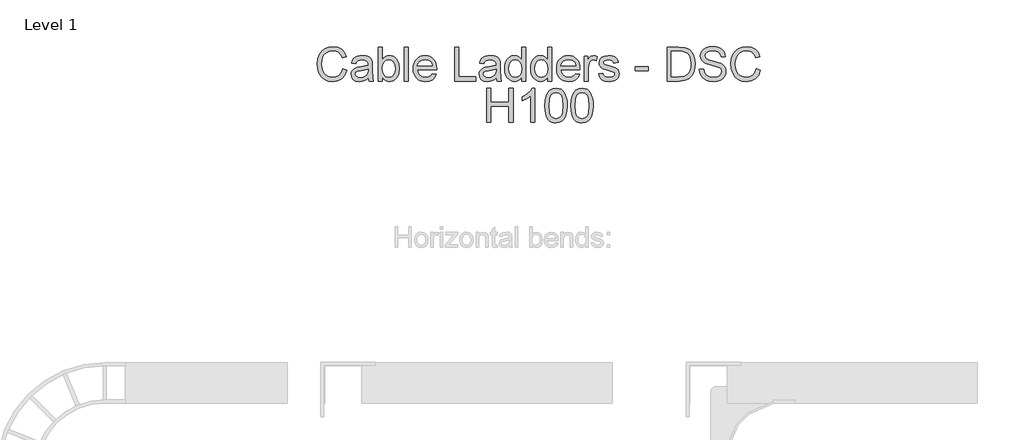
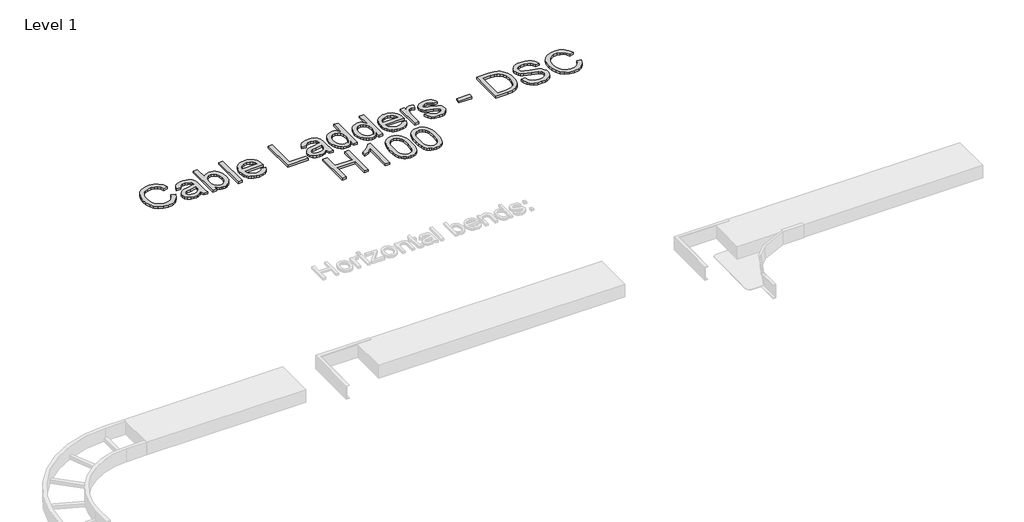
# One storey, part 87 of 106: 1 proxy.
"""IFC4 building model written with IfcOpenShell, lengths in millimetres."""

from ifc_helpers import new_model, si_unit, origin, origin_with_axes, place, context, project, spatial, polyline, outline, extrude, element, save

model = new_model("IFC4")

# Units and contexts
model_context = context("Model", 3, world=origin())
ifc_project = project(units=[si_unit("LENGTHUNIT", "METRE", prefix="MILLI")], contexts=[model_context])

# Site, building, storey
site = spatial("IfcSite", under=ifc_project)
building = spatial("IfcBuilding", under=site)
storey = spatial("IfcBuildingStorey", under=building, Name="Level 1", Elevation=0.0)

# Proxy
placement = place(None, origin())
element("IfcBuildingElementProxy", 1, Name="250mm Arial 3", ObjectType="250mm Arial 3", at=placement, inside=storey, context=model_context, shape_type="SweptSolid", body=[
    extrude(outline(polyline([(92177.4786825, 71592.4106539), (92208.8712794, 71584.31725), (92194.3859258, 71547.7359841), (92171.6538842, 71521.01089), (92141.7941289, 71504.6631338), (92105.9256344, 71499.2138818), (92069.5129811, 71503.3372258), (92040.5959234, 71515.7072579), (92018.4310332, 71535.8947824), (92002.2748823, 71563.4706036), (91992.4110463, 71595.8902044), (91989.1231009, 71630.6090677), (91992.8402419, 71667.2286547), (92003.9916649, 71698.8511778), (92021.9948901, 71724.472626), (92046.2674375, 71743.0889877), (92075.0542037, 71754.4243517), (92106.6000847, 71758.2028064), (92141.0200439, 71753.3130415), (92169.4772491, 71738.643747), (92191.0826521, 71715.0992993), (92204.9472048, 71683.584075), (92173.5546079, 71676.1038078), (92162.6714322, 71698.9967978), (92147.8028682, 71714.7007605), (92128.764975, 71723.7828472), (92105.3738114, 71726.8102095), (92078.4111269, 71723.4532863), (92056.2615651, 71713.3825166), (92039.4539564, 71697.6555613), (92028.5171313, 71677.3300811), (92022.5160562, 71654.3527848), (92020.5156979, 71630.6703814), (92022.8839382, 71601.6690174), (92029.9886592, 71576.5917281), (92042.0981083, 71556.3965394), (92059.4805325, 71542.0414774), (92080.3195147, 71533.4652284), (92102.7986375, 71530.6064787), (92129.0025654, 71534.4998965), (92150.8378947, 71546.1801498), (92167.3236066, 71565.5246114), (92177.4786825, 71592.4106539)])), origin_with_axes(), (0.0, 0.0, 1.0), 15.0),
    extrude(outline(polyline([(92365.834264, 71526.6824041), (92350.8354085, 71513.8218627), (92335.3920289, 71505.406562), (92319.1515717, 71500.7620518), (92301.7614832, 71499.2138818), (92275.5268984, 71502.938687), (92256.1747726, 71514.1131026), (92244.2416004, 71531.0816596), (92240.2638763, 71552.1888891), (92241.7660611, 71565.2027147), (92246.2726156, 71577.0209238), (92262.0608845, 71595.0471415), (92284.0418337, 71605.3478374), (92311.2037877, 71610.0689897), (92365.650323, 71620.8601949), (92365.834264, 71627.8499528), (92363.6729573, 71641.8601254), (92357.1890371, 71651.0265185), (92342.6883551, 71657.8323354), (92322.4855022, 71660.100941), (92303.7848342, 71658.591092), (92290.7250233, 71654.0615449), (92281.8192134, 71645.6845653), (92275.5805479, 71632.6324187), (92244.1879509, 71636.5564933), (92249.637203, 71653.7243198), (92257.7689279, 71667.2133262), (92269.3418824, 71677.5293505), (92285.1148229, 71685.1782303), (92304.405635, 71689.914711), (92326.5322042, 71691.4935379), (92347.7543968, 71690.098652), (92364.5773339, 71685.9139943), (92377.2615985, 71679.6216794), (92386.0677737, 71671.9038217), (92395.6940193, 71650.5973228), (92397.2268609, 71623.1288005), (92397.2268609, 71584.0719953), (92398.8210162, 71529.5334895), (92405.0750102, 71503.1379564), (92373.6824132, 71503.1379564), (92365.834264, 71526.6824041)]), holes=[polyline([(92365.834264, 71589.4675979), (92315.189176, 71579.8413524), (92288.1805062, 71574.7523181), (92275.9484299, 71566.4749732), (92271.6564732, 71554.3961811), (92273.9940568, 71545.0611754), (92281.0068073, 71537.4122956), (92292.5414407, 71532.3079329), (92308.4446728, 71530.6064787), (92325.3059309, 71532.4842097), (92340.2051517, 71538.1174028), (92352.2839439, 71546.4177403), (92360.6839161, 71556.2969047), (92364.4087213, 71566.4749732), (92365.650323, 71580.5771164), (92365.834264, 71589.4675979)])]), origin_with_axes(), (0.0, 0.0, 1.0), 15.0),
    extrude(outline(polyline([(92471.7842786, 71503.1379564), (92440.3916817, 71503.1379564), (92440.3916817, 71754.2787318), (92471.7842786, 71754.2787318), (92471.7842786, 71661.1432733), (92482.1079671, 71674.4215141), (92493.7652278, 71683.9059718), (92506.7560608, 71689.5966464), (92521.080466, 71691.4935379), (92537.2519453, 71689.7844195), (92552.5343766, 71684.6570642), (92566.0540399, 71676.4333687), (92576.9372156, 71665.4352299), (92591.9284069, 71635.5448178), (92597.3546663, 71598.1128248), (92591.7368017, 71556.2049342), (92584.7144709, 71539.2746982), (92574.8832078, 71525.0269351), (92563.0822431, 71513.7337243), (92550.1508078, 71505.6671451), (92536.0889017, 71500.8271976), (92520.896525, 71499.2138818), (92506.100771, 71501.2947143), (92492.9834786, 71507.5372119), (92481.5446478, 71517.9413746), (92471.7842786, 71532.5072023), (92471.7842786, 71503.1379564)]), holes=[polyline([(92471.7842786, 71596.6412968), (92473.9302569, 71570.4603615), (92480.3681918, 71552.7407121), (92496.8155827, 71536.140037), (92518.1987237, 71530.6064787), (92536.3169119, 71534.6838375), (92551.7986126, 71546.9159138), (92562.4212052, 71567.2260656), (92565.9620694, 71595.5376509), (92562.5668251, 71624.2631033), (92552.3810924, 71644.3433289), (92537.3822369, 71656.161538), (92519.5476243, 71660.100941), (92501.4294361, 71656.0235822), (92485.9477354, 71643.7915059), (92475.3251428, 71623.8492361), (92471.7842786, 71596.6412968)])]), origin_with_axes(), (0.0, 0.0, 1.0), 15.0),
    extrude(outline(polyline([(92632.6713378, 71503.1379564), (92632.6713378, 71754.2787318), (92664.0639348, 71754.2787318), (92664.0639348, 71503.1379564), (92632.6713378, 71503.1379564)])), origin_with_axes(), (0.0, 0.0, 1.0), 15.0),
    extrude(outline(polyline([(92840.2794105, 71558.075001), (92871.0588707, 71554.1509264), (92859.9687614, 71530.9590323), (92842.2721046, 71513.6225933), (92818.3674391, 71502.8160596), (92788.6533038, 71499.2138818), (92769.1747186, 71500.7678), (92751.819119, 71505.4295547), (92736.5865052, 71513.1991458), (92723.476877, 71524.0765733), (92712.9347586, 71537.759101), (92705.404674, 71553.9439928), (92700.8866232, 71572.6312485), (92699.3806063, 71593.8208682), (92700.9019516, 71615.7290074), (92705.4659876, 71635.0389801), (92713.0727143, 71651.7507861), (92723.7221317, 71665.8644256), (92736.7972709, 71677.0771622), (92751.6811633, 71685.0862598), (92768.3738088, 71689.8917184), (92786.8752075, 71691.4935379), (92804.780714, 71689.8955505), (92820.9732699, 71685.1015883), (92835.4528753, 71677.1116512), (92848.2195302, 71665.9257393), (92858.6409373, 71651.8427566), (92866.0847996, 71635.1616074), (92870.5511169, 71615.8822916), (92872.0398894, 71594.0048092), (92871.8559484, 71585.5435233), (92730.7732032, 71585.5435233), (92736.2071269, 71562.0450609), (92748.8300778, 71544.7699355), (92767.0479008, 71534.1473429), (92789.2664405, 71530.6064787), (92805.9744144, 71532.2466193), (92820.0459007, 71537.1670409), (92831.4808994, 71545.6743121), (92840.2794105, 71558.075001)]), holes=[polyline([(92730.7732032, 71616.9361202), (92840.6472925, 71616.9361202), (92836.4013211, 71633.5214669), (92828.077991, 71645.3856612), (92809.7758617, 71656.4221211), (92786.7525802, 71660.100941), (92765.5917012, 71657.1655493), (92748.0943138, 71648.359374), (92735.9312154, 71634.632777), (92730.7732032, 71616.9361202)])]), origin_with_axes(), (0.0, 0.0, 1.0), 15.0),
    extrude(outline(polyline([(93005.4584263, 71503.1379564), (93005.4584263, 71754.2787318), (93036.8510232, 71754.2787318), (93036.8510232, 71534.5305533), (93162.4214109, 71534.5305533), (93162.4214109, 71503.1379564), (93005.4584263, 71503.1379564)])), origin_with_axes(), (0.0, 0.0, 1.0), 15.0),
    extrude(outline(polyline([(93311.5362463, 71526.6824041), (93296.5373908, 71513.8218627), (93281.0940112, 71505.406562), (93264.8535539, 71500.7620518), (93247.4634655, 71499.2138818), (93221.2288807, 71502.938687), (93201.8767549, 71514.1131026), (93189.9435827, 71531.0816596), (93185.9658586, 71552.1888891), (93187.4680434, 71565.2027147), (93191.9745978, 71577.0209238), (93207.7628668, 71595.0471415), (93229.743816, 71605.3478374), (93256.90577, 71610.0689897), (93311.3523053, 71620.8601949), (93311.5362463, 71627.8499528), (93309.3749396, 71641.8601254), (93302.8910194, 71651.0265185), (93288.3903374, 71657.8323354), (93268.1874845, 71660.100941), (93249.4868164, 71658.591092), (93236.4270056, 71654.0615449), (93227.5211956, 71645.6845653), (93221.2825301, 71632.6324187), (93189.8899332, 71636.5564933), (93195.3391853, 71653.7243198), (93203.4709102, 71667.2133262), (93215.0438646, 71677.5293505), (93230.8168052, 71685.1782303), (93250.1076173, 71689.914711), (93272.2341865, 71691.4935379), (93293.4563791, 71690.098652), (93310.2793161, 71685.9139943), (93322.9635808, 71679.6216794), (93331.769756, 71671.9038217), (93341.3960016, 71650.5973228), (93342.9288432, 71623.1288005), (93342.9288432, 71584.0719953), (93344.5229985, 71529.5334895), (93350.7769924, 71503.1379564), (93319.3843955, 71503.1379564), (93311.5362463, 71526.6824041)]), holes=[polyline([(93311.5362463, 71589.4675979), (93260.8911583, 71579.8413524), (93233.8824885, 71574.7523181), (93221.6504121, 71566.4749732), (93217.3584555, 71554.3961811), (93219.696039, 71545.0611754), (93226.7087896, 71537.4122956), (93238.2434229, 71532.3079329), (93254.146655, 71530.6064787), (93271.0079131, 71532.4842097), (93285.9071339, 71538.1174028), (93297.9859261, 71546.4177403), (93306.3858983, 71556.2969047), (93310.1107035, 71566.4749732), (93311.3523053, 71580.5771164), (93311.5362463, 71589.4675979)])]), origin_with_axes(), (0.0, 0.0, 1.0), 15.0),
    extrude(outline(polyline([(93499.8918278, 71503.1379564), (93499.8918278, 71532.752457), (93490.4993406, 71518.0793303), (93479.1218235, 71507.5985256), (93465.7592764, 71501.3100427), (93450.4116995, 71499.2138818), (93430.1168761, 71502.2489082), (93411.5388353, 71511.3539876), (93395.81188, 71525.8929906), (93384.070313, 71545.229788), (93376.7586583, 71568.5826305), (93374.3214401, 71595.1697689), (93376.5670531, 71621.4273463), (93383.3038922, 71645.1404065), (93394.524293, 71664.960049), (93410.2205915, 71679.5373731), (93429.2048353, 71688.5044967), (93450.2890721, 71691.4935379), (93465.6481454, 71689.3552238), (93479.2291224, 71682.9402815), (93490.7407632, 71673.1071024), (93499.8918278, 71660.7140777), (93499.8918278, 71754.2787318), (93531.2844247, 71754.2787318), (93531.2844247, 71503.1379564), (93499.8918278, 71503.1379564)]), holes=[polyline([(93405.714037, 71595.2923962), (93409.2549012, 71566.8965047), (93419.8774939, 71546.701316), (93435.3132092, 71534.630188), (93453.2934418, 71530.6064787), (93471.2660101, 71534.446247), (93486.3108508, 71545.965552), (93496.4965836, 71565.3789915), (93499.8918278, 71592.9011632), (93496.4352699, 71622.9908447), (93486.0655962, 71643.8528196), (93470.637545, 71656.0389106), (93452.0058548, 71660.100941), (93433.8416813, 71656.199859), (93418.9577889, 71644.496613), (93409.024975, 71624.3933948), (93405.714037, 71595.2923962)])]), origin_with_axes(), (0.0, 0.0, 1.0), 15.0),
    extrude(outline(polyline([(93692.171484, 71503.1379564), (93692.171484, 71532.752457), (93682.7789968, 71518.0793303), (93671.4014796, 71507.5985256), (93658.0389326, 71501.3100427), (93642.6913556, 71499.2138818), (93622.3965322, 71502.2489082), (93603.8184914, 71511.3539876), (93588.0915362, 71525.8929906), (93576.3499691, 71545.229788), (93569.0383145, 71568.5826305), (93566.6010963, 71595.1697689), (93568.8467093, 71621.4273463), (93575.5835483, 71645.1404065), (93586.8039492, 71664.960049), (93602.5002476, 71679.5373731), (93621.4844914, 71688.5044967), (93642.5687283, 71691.4935379), (93657.9278016, 71689.3552238), (93671.5087786, 71682.9402815), (93683.0204193, 71673.1071024), (93692.171484, 71660.7140777), (93692.171484, 71754.2787318), (93723.5640809, 71754.2787318), (93723.5640809, 71503.1379564), (93692.171484, 71503.1379564)]), holes=[polyline([(93597.9936932, 71595.2923962), (93601.5345574, 71566.8965047), (93612.15715, 71546.701316), (93627.5928654, 71534.630188), (93645.5730979, 71530.6064787), (93663.5456662, 71534.446247), (93678.590507, 71545.965552), (93688.7762397, 71565.3789915), (93692.171484, 71592.9011632), (93688.714926, 71622.9908447), (93678.3452523, 71643.8528196), (93662.9172011, 71656.0389106), (93644.2855109, 71660.100941), (93626.1213374, 71656.199859), (93611.237445, 71644.496613), (93601.3046311, 71624.3933948), (93597.9936932, 71595.2923962)])]), origin_with_axes(), (0.0, 0.0, 1.0), 15.0),
    extrude(outline(polyline([(93899.7795566, 71558.075001), (93930.5590168, 71554.1509264), (93919.4689075, 71530.9590323), (93901.7722507, 71513.6225933), (93877.8675852, 71502.8160596), (93848.1534499, 71499.2138818), (93828.6748647, 71500.7678), (93811.3192651, 71505.4295547), (93796.0866513, 71513.1991458), (93782.9770231, 71524.0765733), (93772.4349047, 71537.759101), (93764.9048201, 71553.9439928), (93760.3867693, 71572.6312485), (93758.8807524, 71593.8208682), (93760.4020977, 71615.7290074), (93764.9661338, 71635.0389801), (93772.5728604, 71651.7507861), (93783.2222778, 71665.8644256), (93796.297417, 71677.0771622), (93811.1813094, 71685.0862598), (93827.8739549, 71689.8917184), (93846.3753536, 71691.4935379), (93864.2808601, 71689.8955505), (93880.473416, 71685.1015883), (93894.9530214, 71677.1116512), (93907.7196763, 71665.9257393), (93918.1410834, 71651.8427566), (93925.5849457, 71635.1616074), (93930.051263, 71615.8822916), (93931.5400355, 71594.0048092), (93931.3560945, 71585.5435233), (93790.2733493, 71585.5435233), (93795.707273, 71562.0450609), (93808.3302239, 71544.7699355), (93826.5480469, 71534.1473429), (93848.7665866, 71530.6064787), (93865.4745605, 71532.2466193), (93879.5460468, 71537.1670409), (93890.9810455, 71545.6743121), (93899.7795566, 71558.075001)]), holes=[polyline([(93790.2733493, 71616.9361202), (93900.1474386, 71616.9361202), (93895.9014672, 71633.5214669), (93887.5781371, 71645.3856612), (93869.2760078, 71656.4221211), (93846.2527263, 71660.100941), (93825.0918473, 71657.1655493), (93807.5944599, 71648.359374), (93795.4313615, 71634.632777), (93790.2733493, 71616.9361202)])]), origin_with_axes(), (0.0, 0.0, 1.0), 15.0),
    extrude(outline(polyline([(93962.9326324, 71503.1379564), (93962.9326324, 71687.5694633), (93990.4011547, 71687.5694633), (93990.4011547, 71660.284882), (94000.5485664, 71676.1038078), (94009.8989005, 71685.423485), (94029.5192735, 71691.4935379), (94045.1542583, 71689.0716481), (94061.0344978, 71681.8059787), (94050.5498609, 71653.6630061), (94028.4769412, 71660.100941), (94019.1036145, 71658.5527709), (94010.7266349, 71653.9082608), (93999.4142636, 71636.7404343), (93994.3252293, 71600.0748621), (93994.3252293, 71503.1379564), (93962.9326324, 71503.1379564)])), origin_with_axes(), (0.0, 0.0, 1.0), 15.0),
    extrude(outline(polyline([(94068.882647, 71558.075001), (94100.2752439, 71561.9990756), (94105.2263225, 71548.5713828), (94114.8065827, 71538.6998826), (94129.0773385, 71532.6298297), (94148.0999033, 71530.6064787), (94166.8925419, 71532.4612171), (94180.1056369, 71538.0254323), (94187.9231293, 71546.0881793), (94190.5289601, 71555.4385134), (94187.9078009, 71563.4399468), (94180.0443232, 71569.5406565), (94147.7320213, 71578.4924517), (94100.4591849, 71593.851525), (94088.4953559, 71601.5693827), (94079.8271364, 71611.7857723), (94074.5618253, 71623.8492361), (94072.8067216, 71637.1083163), (94078.4475789, 71660.4994798), (94093.837309, 71678.3724134), (94113.7949073, 71687.6614338), (94140.8035771, 71691.4935379), (94161.2363562, 71689.9530321), (94179.0019909, 71685.3315145), (94193.2880751, 71678.0811735), (94203.2822026, 71668.6541974), (94209.9040785, 71656.3531432), (94214.0734078, 71640.4805679), (94182.6808109, 71636.5564933), (94178.7184152, 71646.4356577), (94170.8779302, 71653.8776039), (94159.0827137, 71658.5451067), (94143.2561237, 71660.100941), (94125.2299059, 71658.6140846), (94113.2124274, 71654.1535154), (94106.4525958, 71647.7155805), (94104.1993186, 71640.2966269), (94107.9394522, 71631.1608907), (94119.6503624, 71624.2324465), (94146.689689, 71617.5492569), (94192.7669089, 71602.7726634), (94204.9376716, 71595.7062634), (94214.1653783, 71586.0340326), (94219.9825123, 71573.7253142), (94221.921557, 71558.7494513), (94219.6452872, 71543.2677507), (94212.8164776, 71528.7057551), (94201.6957115, 71516.2054314), (94186.5435718, 71506.9087468), (94168.2414425, 71501.137598), (94147.6707076, 71499.2138818), (94116.0175276, 71502.9233586), (94092.917604, 71514.0517889), (94077.4972171, 71532.4765455), (94068.882647, 71558.075001)])), origin_with_axes(), (0.0, 0.0, 1.0), 15.0),
    extrude(outline(polyline([(94339.6437955, 71577.6953741), (94339.6437955, 71609.087971), (94437.7456608, 71609.087971), (94437.7456608, 71577.6953741), (94339.6437955, 71577.6953741)])), origin_with_axes(), (0.0, 0.0, 1.0), 15.0),
    extrude(outline(polyline([(94575.0882724, 71503.1379564), (94575.0882724, 71754.2787318), (94661.7244822, 71754.2787318), (94706.544772, 71750.6612255), (94726.5636839, 71743.686796), (94743.4555988, 71732.6963214), (94760.8226947, 71713.5664576), (94773.1927268, 71689.7767553), (94780.5963519, 71661.7870668), (94783.064227, 71630.0572447), (94781.3934296, 71603.1022244), (94776.3810374, 71579.3814999), (94768.747486, 71559.1863112), (94759.213211, 71542.8078982), (94736.2818999, 71520.0298713), (94706.2688605, 71507.429913), (94665.8938115, 71503.1379564), (94575.0882724, 71503.1379564)]), holes=[polyline([(94606.4808693, 71534.5305533), (94662.0310506, 71534.5305533), (94702.4367564, 71539.0677646), (94725.7359494, 71551.8823208), (94736.6421177, 71565.470962), (94744.8351563, 71583.0603198), (94749.9625116, 71604.7270365), (94751.6716301, 71630.5477541), (94748.3223711, 71664.7607796), (94738.2745941, 71690.0220099), (94723.4290227, 71707.3737774), (94705.6863807, 71717.8584142), (94687.6295061, 71721.6292047), (94661.1726593, 71722.8861348), (94606.4808693, 71722.8861348), (94606.4808693, 71534.5305533)])]), origin_with_axes(), (0.0, 0.0, 1.0), 15.0),
    extrude(outline(polyline([(94814.4568239, 71589.4675979), (94845.8494208, 71589.4675979), (94849.4515987, 71572.0468526), (94855.9661757, 71558.0443442), (94866.1289158, 71546.9312422), (94880.675583, 71538.1787164), (94898.4565461, 71532.4995381), (94918.3221739, 71530.6064787), (94935.8118971, 71532.0396856), (94951.1249851, 71536.3393065), (94963.5333382, 71543.1451234), (94972.3088567, 71552.0969186), (94977.5281825, 71562.3746218), (94979.2679577, 71573.1581628), (94974.0562961, 71592.7478791), (94966.1161764, 71600.4963936), (94952.7191404, 71607.0033064), (94907.0098025, 71618.990128), (94857.8055857, 71634.4718287), (94842.1782651, 71645.0331076), (94831.1034842, 71657.8323354), (94824.5046009, 71672.5936004), (94822.3049731, 71689.0409913), (94825.0257671, 71707.4274268), (94833.1881488, 71724.5722607), (94846.5775206, 71739.1035995), (94864.9792846, 71749.64955), (94887.0675327, 71756.0644923), (94911.516357, 71758.2028064), (94938.0038606, 71755.9648576), (94961.1804263, 71749.2510112), (94980.2183196, 71738.1992229), (94994.2898059, 71722.9474485), (95003.1956158, 71704.4460498), (95006.7364801, 71683.6453887), (94975.3438831, 71683.6453887), (94969.5803985, 71702.3767136), (94957.56292, 71715.8963769), (94938.7856099, 71724.0817513), (94912.7426303, 71726.8102095), (94886.0865141, 71724.1124082), (94867.7997132, 71716.0190043), (94857.2231058, 71704.1088247), (94853.6975701, 71689.9606963), (94856.1961019, 71677.8972325), (94863.6916976, 71668.1943449), (94881.411347, 71659.5184612), (94914.9499223, 71650.6586365), (94970.5001035, 71634.9010243), (94988.3960298, 71623.5120109), (95000.881025, 71609.455853), (95008.2156722, 71592.8858348), (95010.6605547, 71573.9552405), (95007.8477902, 71554.6031147), (94999.409497, 71536.4006201), (94985.6905642, 71520.7349785), (94967.0358814, 71508.9934115), (94944.6027439, 71501.6587642), (94919.5484472, 71499.2138818), (94888.7919796, 71501.8503694), (94863.4770998, 71509.7598323), (94843.3125679, 71522.9729273), (94828.0071441, 71541.5203112), (94818.1816291, 71564.1143971), (94814.4568239, 71589.4675979)])), origin_with_axes(), (0.0, 0.0, 1.0), 15.0),
    extrude(outline(polyline([(95234.3328077, 71592.4106539), (95265.7254047, 71584.31725), (95251.2400511, 71547.7359841), (95228.5080095, 71521.01089), (95198.6482542, 71504.6631338), (95162.7797597, 71499.2138818), (95126.3671064, 71503.3372258), (95097.4500487, 71515.7072579), (95075.2851585, 71535.8947824), (95059.1290075, 71563.4706036), (95049.2651715, 71595.8902044), (95045.9772262, 71630.6090677), (95049.6943672, 71667.2286547), (95060.8457902, 71698.8511778), (95078.8490153, 71724.472626), (95103.1215628, 71743.0889877), (95131.9083289, 71754.4243517), (95163.45421, 71758.2028064), (95197.8741692, 71753.3130415), (95226.3313743, 71738.643747), (95247.9367773, 71715.0992993), (95261.80133, 71683.584075), (95230.4087331, 71676.1038078), (95219.5255574, 71698.9967978), (95204.6569935, 71714.7007605), (95185.6191002, 71723.7828472), (95162.2279367, 71726.8102095), (95135.2652521, 71723.4532863), (95113.1156903, 71713.3825166), (95096.3080817, 71697.6555613), (95085.3712565, 71677.3300811), (95079.3701815, 71654.3527848), (95077.3698231, 71630.6703814), (95079.7380635, 71601.6690174), (95086.8427845, 71576.5917281), (95098.9522335, 71556.3965394), (95116.3346578, 71542.0414774), (95137.17364, 71533.4652284), (95159.6527627, 71530.6064787), (95185.8566907, 71534.4998965), (95207.6920199, 71546.1801498), (95224.1777318, 71565.5246114), (95234.3328077, 71592.4106539)])), origin_with_axes(), (0.0, 0.0, 1.0), 15.0),
    extrude(outline(polyline([(93240.9029032, 71198.2009118), (93240.9029032, 71449.3416872), (93272.2955001, 71449.3416872), (93272.2955001, 71347.3157472), (93405.714037, 71347.3157472), (93405.714037, 71449.3416872), (93437.106634, 71449.3416872), (93437.106634, 71198.2009118), (93405.714037, 71198.2009118), (93405.714037, 71315.9231502), (93272.2955001, 71315.9231502), (93272.2955001, 71198.2009118), (93240.9029032, 71198.2009118)])), origin_with_axes(), (0.0, 0.0, 1.0), 15.0),
    extrude(outline(polyline([(93597.9936932, 71198.2009118), (93566.6010963, 71198.2009118), (93566.6010963, 71393.9141332), (93536.8639683, 71372.7302617), (93503.8159024, 71356.880679), (93503.8159024, 71386.5564933), (93528.4716603, 71399.9688577), (93549.8318087, 71415.9257393), (93566.6700741, 71432.8942963), (93577.7601835, 71449.3416872), (93597.9936932, 71449.3416872), (93597.9936932, 71198.2009118)])), origin_with_axes(), (0.0, 0.0, 1.0), 15.0),
    extrude(outline(polyline([(93672.5511109, 71321.7479485), (93674.8580376, 71361.9467207), (93681.7788176, 71394.0061037), (93693.2444731, 71418.4166069), (93709.1860262, 71435.6687397), (93729.7184401, 71445.9234503), (93754.9566778, 71449.3416872), (93774.3011394, 71447.3183362), (93791.62225, 71441.2482833), (93806.1076035, 71431.3691189), (93816.944794, 71417.9184334), (93831.6600738, 71380.7623519), (93835.936702, 71355.0489333), (93837.3622447, 71321.7479485), (93835.0783107, 71281.7791026), (93828.2265085, 71249.7963616), (93816.8298309, 71225.3628658), (93800.9112704, 71208.0417552), (93780.3328713, 71197.7180667), (93754.9566778, 71194.2768372), (93737.666224, 71195.7713578), (93722.3378076, 71200.2549196), (93708.9714284, 71207.7275226), (93697.5670866, 71218.1891669), (93686.6225972, 71237.1006007), (93678.8051048, 71260.6642089), (93674.1146094, 71288.8799915), (93672.5511109, 71321.7479485)]), holes=[polyline([(93703.9437078, 71321.8092622), (93707.6225278, 71272.4287685), (93712.2210527, 71255.5387696), (93718.6589876, 71243.848936), (93735.0910501, 71230.2143096), (93754.9566778, 71225.6694341), (93774.8223055, 71230.229638), (93791.254368, 71243.9102497), (93797.6923029, 71255.6192438), (93802.2908278, 71272.5054106), (93805.9696478, 71321.8092622), (93802.4134552, 71370.0784456), (93797.9682144, 71386.912879), (93791.7448773, 71398.8805402), (93775.3434717, 71413.1819527), (93754.5887958, 71417.9490902), (93734.9377659, 71413.7491041), (93719.1494969, 71401.1491458), (93712.4969642, 71388.1199918), (93707.7451551, 71370.5536265), (93703.9437078, 71321.8092622)])]), origin_with_axes(), (0.0, 0.0, 1.0), 15.0),
    extrude(outline(polyline([(93864.830767, 71321.7479485), (93867.1376937, 71361.9467207), (93874.0584737, 71394.0061037), (93885.5241293, 71418.4166069), (93901.4656824, 71435.6687397), (93921.9980962, 71445.9234503), (93947.2363339, 71449.3416872), (93966.5807955, 71447.3183362), (93983.9019061, 71441.2482833), (93998.3872597, 71431.3691189), (94009.2244501, 71417.9184334), (94023.9397299, 71380.7623519), (94028.2163581, 71355.0489333), (94029.6419009, 71321.7479485), (94027.3579668, 71281.7791026), (94020.5061647, 71249.7963616), (94009.109487, 71225.3628658), (93993.1909265, 71208.0417552), (93972.6125274, 71197.7180667), (93947.2363339, 71194.2768372), (93929.9458802, 71195.7713578), (93914.6174637, 71200.2549196), (93901.2510845, 71207.7275226), (93889.8467427, 71218.1891669), (93878.9022533, 71237.1006007), (93871.0847609, 71260.6642089), (93866.3942655, 71288.8799915), (93864.830767, 71321.7479485)]), holes=[polyline([(93896.2233639, 71321.8092622), (93899.9021839, 71272.4287685), (93904.5007088, 71255.5387696), (93910.9386438, 71243.848936), (93927.3707062, 71230.2143096), (93947.2363339, 71225.6694341), (93967.1019617, 71230.229638), (93983.5340241, 71243.9102497), (93989.9719591, 71255.6192438), (93994.570484, 71272.5054106), (93998.2493039, 71321.8092622), (93994.6931113, 71370.0784456), (93990.2478705, 71386.912879), (93984.0245335, 71398.8805402), (93967.6231278, 71413.1819527), (93946.8684519, 71417.9490902), (93927.217422, 71413.7491041), (93911.4291531, 71401.1491458), (93904.7766203, 71388.1199918), (93900.0248112, 71370.5536265), (93896.2233639, 71321.8092622)])]), origin_with_axes(), (0.0, 0.0, 1.0), 15.0),
])

save(model, "model.ifc")
